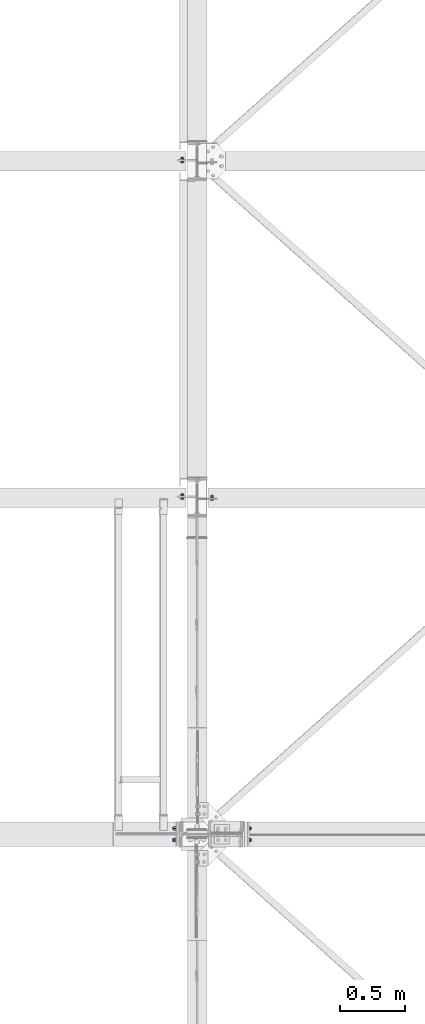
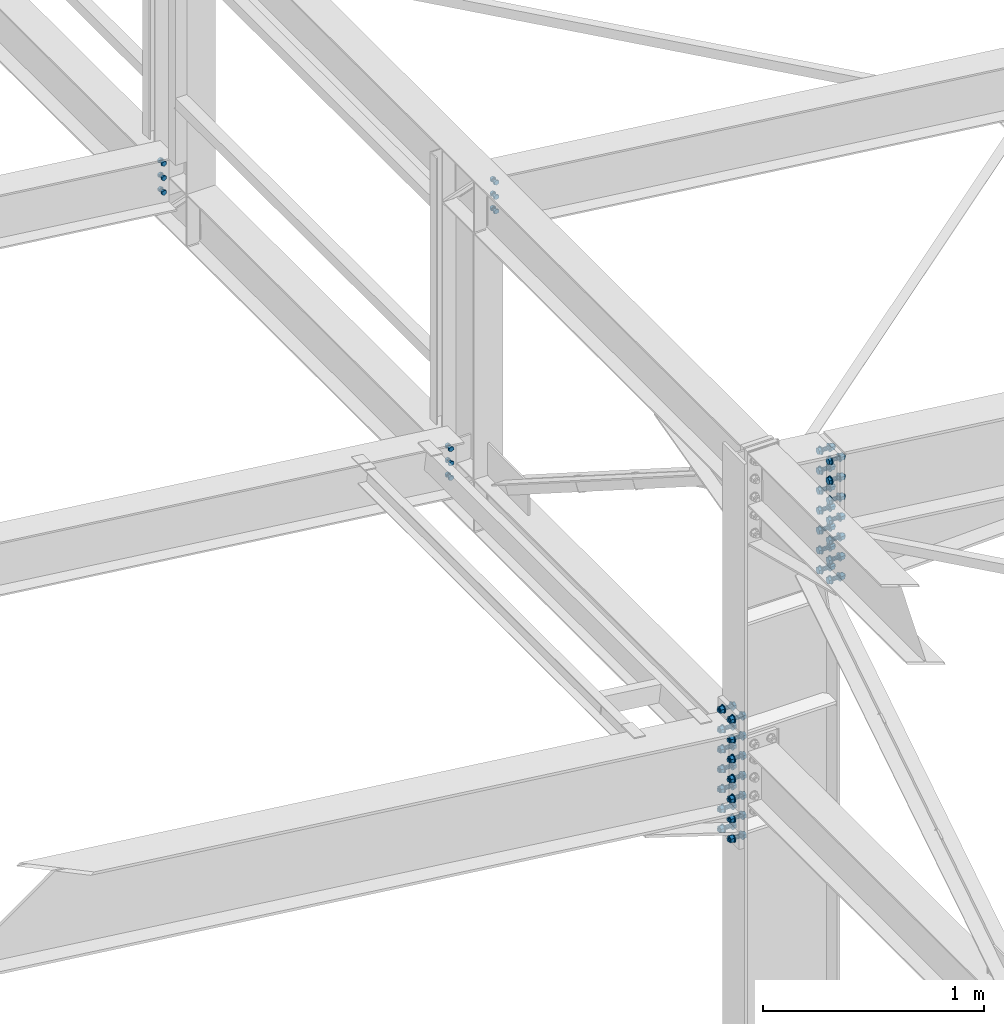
# One storey, part 250 of 3134: 5 mechanical fasteners, 5 elements without a shape of their own.
"""IFC2X3 building model written with IfcOpenShell, lengths in millimetres."""

from ifc_helpers import new_model, si_unit, frame, origin_with_axes, place, context, subcontext, project, spatial, faceted_brep, source, transform, mapped, material, type_object, element, aggregate, save


model = new_model("IFC2X3")

# Units and contexts
model_context = context("Model", 3, precision=1e-05, world=origin_with_axes())
body_context = subcontext(model_context, "Body", "Model", "MODEL_VIEW")
ifc_project = project(units=[si_unit("LENGTHUNIT", "METRE", prefix="MILLI"), si_unit("AREAUNIT", "SQUARE_METRE"), si_unit("VOLUMEUNIT", "CUBIC_METRE"), si_unit("MASSUNIT", "GRAM", prefix="KILO"), si_unit("TIMEUNIT", "SECOND"), si_unit("PLANEANGLEUNIT", "RADIAN"), si_unit("SOLIDANGLEUNIT", "STERADIAN"), si_unit("THERMODYNAMICTEMPERATUREUNIT", "DEGREE_CELSIUS"), si_unit("LUMINOUSINTENSITYUNIT", "LUMEN")], contexts=[model_context])

# Site, building, storey
site_placement = place(None, origin_with_axes())
site = spatial("IfcSite", under=ifc_project, at=site_placement, CompositionType="ELEMENT")
building_placement = place(site_placement, origin_with_axes())
building = spatial("IfcBuilding", under=site, at=building_placement, Name="Undefined", CompositionType="ELEMENT")
storey_placement = place(building_placement, origin_with_axes())
storey = spatial("IfcBuildingStorey", under=building, at=storey_placement, Name="Undefined", CompositionType="ELEMENT", Elevation=0.0)

# Assembly, mechanical fastener
assembly_1_placement = place(storey_placement, origin_with_axes())
assembly_1 = element("IfcElementAssembly", 1, at=assembly_1_placement, inside=storey, Name="IPE450", AssemblyPlace="NOTDEFINED", PredefinedType="RIGID_FRAME")
ifc_material_1 = material(Name="HR10.9")
mechanical_fastener_type = type_object("IfcMechanicalFastenerType", Name="Bolt assembly")
shared_shape_1 = source(origin_with_axes(), body_context, "Body", "Brep", [
    faceted_brep([(18.475208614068, -33.599999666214, 0.0), (9.23760430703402, -33.599999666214, 16.0), (-9.23760430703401, -33.599999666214, 16.0), (-18.475208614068, -33.599999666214, 2.2625605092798e-15), (-9.23760430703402, -33.599999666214, -16.0), (9.237604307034, -33.599999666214, -16.0), (9.237604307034, -19.7000000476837, -16.0), (-9.23760430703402, -19.7000000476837, -16.0), (-18.475208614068, -19.7000000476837, 2.2625605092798e-15), (-9.23760430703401, -19.7000000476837, 16.0), (9.23760430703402, -19.7000000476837, 16.0), (18.475208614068, -19.7000000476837, 0.0), (10.0, -19.7000000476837, 0.0), (8.66025403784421, -19.7000000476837, 5.0000000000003), (4.9999999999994, -19.7000000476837, 8.66025403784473), (-1.03633598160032e-12, -19.7000000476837, 10.0), (-5.00000000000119, -19.7000000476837, 8.6602540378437), (-8.66025403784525, -19.7000000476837, 4.99999999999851), (-10.0, -19.7000000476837, -2.07267196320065e-12), (-8.66025403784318, -19.7000000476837, -5.00000000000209), (-4.99999999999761, -19.7000000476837, -8.66025403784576), (3.09790571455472e-12, -19.7000000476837, -10.0), (5.00000000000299, -19.7000000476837, -8.66025403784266), (8.66025403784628, -19.7000000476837, -4.99999999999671), (8.66025403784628, 55.2999999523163, -4.99999999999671), (5.00000000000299, 55.2999999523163, -8.66025403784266), (3.09790571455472e-12, 55.2999999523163, -10.0), (-4.99999999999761, 55.2999999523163, -8.66025403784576), (-8.66025403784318, 55.2999999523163, -5.00000000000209), (-10.0, 55.2999999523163, -2.07267196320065e-12), (-8.66025403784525, 55.2999999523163, 4.99999999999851), (-5.00000000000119, 55.2999999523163, 8.6602540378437), (-1.03633598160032e-12, 55.2999999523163, 10.0), (4.9999999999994, 55.2999999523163, 8.66025403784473), (8.66025403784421, 55.2999999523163, 5.0000000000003), (10.0, 55.2999999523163, 0.0), (22.0, -19.7000000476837, 0.0), (19.0525588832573, -19.7000000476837, 11.0000000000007), (10.9999999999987, -19.7000000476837, 19.0525588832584), (-2.27993915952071e-12, -19.7000000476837, 22.0), (-11.0000000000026, -19.7000000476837, 19.0525588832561), (-19.0525588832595, -19.7000000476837, 10.9999999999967), (-22.0, -19.7000000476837, -4.55987831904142e-12), (-19.052558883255, -19.7000000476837, -11.0000000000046), (-10.9999999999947, -19.7000000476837, -19.0525588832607), (6.81539257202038e-12, -19.7000000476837, -22.0), (11.0000000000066, -19.7000000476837, -19.0525588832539), (19.0525588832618, -19.7000000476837, -10.9999999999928), (19.0525588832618, -16.0, -10.9999999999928), (11.0000000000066, -16.0, -19.0525588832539), (6.81539257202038e-12, -16.0, -22.0), (-10.9999999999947, -16.0, -19.0525588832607), (-19.052558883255, -16.0, -11.0000000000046), (-22.0, -16.0, -4.55987831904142e-12), (-19.0525588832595, -16.0, 10.9999999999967), (-11.0000000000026, -16.0, 19.0525588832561), (-2.27993915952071e-12, -16.0, 22.0), (10.9999999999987, -16.0, 19.0525588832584), (19.0525588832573, -16.0, 11.0000000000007), (22.0, -16.0, 0.0), (22.0, 25.0, 0.0), (19.0525588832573, 25.0, 11.0000000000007), (10.9999999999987, 25.0, 19.0525588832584), (-2.27993915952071e-12, 25.0, 22.0), (-11.0000000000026, 25.0, 19.0525588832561), (-19.0525588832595, 25.0, 10.9999999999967), (-22.0, 25.0, -4.55987831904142e-12), (-19.052558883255, 25.0, -11.0000000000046), (-10.9999999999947, 25.0, -19.0525588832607), (6.81539257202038e-12, 25.0, -22.0), (11.0000000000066, 25.0, -19.0525588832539), (19.0525588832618, 25.0, -10.9999999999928), (19.0525588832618, 28.7000000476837, -10.9999999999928), (11.0000000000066, 28.7000000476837, -19.0525588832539), (6.81539257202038e-12, 28.7000000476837, -22.0), (-10.9999999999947, 28.7000000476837, -19.0525588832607), (-19.052558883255, 28.7000000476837, -11.0000000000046), (-22.0, 28.7000000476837, -4.55987831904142e-12), (-19.0525588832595, 28.7000000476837, 10.9999999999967), (-11.0000000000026, 28.7000000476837, 19.0525588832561), (-2.27993915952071e-12, 28.7000000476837, 22.0), (10.9999999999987, 28.7000000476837, 19.0525588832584), (19.0525588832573, 28.7000000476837, 11.0000000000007), (22.0, 28.7000000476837, 0.0), (18.475208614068, 28.7000000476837, 0.0), (9.23760430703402, 28.7000000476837, 16.0), (-9.23760430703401, 28.7000000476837, 16.0), (-18.475208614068, 28.7000000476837, 2.2625605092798e-15), (-9.23760430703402, 28.7000000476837, -16.0), (9.237604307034, 28.7000000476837, -16.0), (9.237604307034, 47.2499992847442, -16.0), (-9.23760430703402, 47.2499992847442, -16.0), (-18.475208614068, 47.2499992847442, 2.2625605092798e-15), (-9.23760430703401, 47.2499992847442, 16.0), (9.23760430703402, 47.2499992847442, 16.0), (18.475208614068, 47.2499992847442, 0.0)], [[[0, 1, 2, 3, 4, 5]], [[6, 7, 8, 9, 10, 11]], [[0, 11, 10, 1]], [[1, 10, 9, 2]], [[2, 9, 8, 3]], [[3, 8, 7, 4]], [[4, 7, 6, 5]], [[5, 6, 11, 0]], [[12, 13, 14, 15, 16, 17, 18, 19, 20, 21, 22, 23]], [[24, 25, 26, 27, 28, 29, 30, 31, 32, 33, 34, 35]], [[12, 35, 34, 13]], [[13, 34, 33, 14]], [[14, 33, 32, 15]], [[15, 32, 31, 16]], [[16, 31, 30, 17]], [[17, 30, 29, 18]], [[18, 29, 28, 19]], [[19, 28, 27, 20]], [[20, 27, 26, 21]], [[21, 26, 25, 22]], [[22, 25, 24, 23]], [[23, 24, 35, 12]], [[36, 37, 38, 39, 40, 41, 42, 43, 44, 45, 46, 47]], [[48, 49, 50, 51, 52, 53, 54, 55, 56, 57, 58, 59]], [[36, 59, 58, 37]], [[37, 58, 57, 38]], [[38, 57, 56, 39]], [[39, 56, 55, 40]], [[40, 55, 54, 41]], [[41, 54, 53, 42]], [[42, 53, 52, 43]], [[43, 52, 51, 44]], [[44, 51, 50, 45]], [[45, 50, 49, 46]], [[46, 49, 48, 47]], [[47, 48, 59, 36]], [[60, 61, 62, 63, 64, 65, 66, 67, 68, 69, 70, 71]], [[72, 73, 74, 75, 76, 77, 78, 79, 80, 81, 82, 83]], [[60, 83, 82, 61]], [[61, 82, 81, 62]], [[62, 81, 80, 63]], [[63, 80, 79, 64]], [[64, 79, 78, 65]], [[65, 78, 77, 66]], [[66, 77, 76, 67]], [[67, 76, 75, 68]], [[68, 75, 74, 69]], [[69, 74, 73, 70]], [[70, 73, 72, 71]], [[71, 72, 83, 60]], [[84, 85, 86, 87, 88, 89]], [[90, 91, 92, 93, 94, 95]], [[84, 95, 94, 85]], [[85, 94, 93, 86]], [[86, 93, 92, 87]], [[87, 92, 91, 88]], [[88, 91, 90, 89]], [[89, 90, 95, 84]]]),
    faceted_brep([(11.0, -15.9, 0.0), (9.52627944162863, -15.9, 5.50000000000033), (5.49999999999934, -15.9, 9.5262794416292), (-1.13996957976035e-12, -15.9, 11.0), (-5.50000000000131, -15.9, 9.52627944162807), (-9.52627944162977, -15.9, 5.49999999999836), (-11.0, -15.9, -2.27993915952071e-12), (-9.5262794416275, -15.9, -5.5000000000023), (-5.49999999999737, -15.9, -9.52627944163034), (3.40769628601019e-12, -15.9, -11.0), (5.50000000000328, -15.9, -9.52627944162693), (9.52627944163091, -15.9, -5.49999999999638), (9.52627944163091, 0.0999999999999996, -5.49999999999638), (5.50000000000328, 0.0999999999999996, -9.52627944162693), (3.40769628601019e-12, 0.0999999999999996, -11.0), (-5.49999999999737, 0.0999999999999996, -9.52627944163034), (-9.5262794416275, 0.0999999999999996, -5.5000000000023), (-11.0, 0.0999999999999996, -2.27993915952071e-12), (-9.52627944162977, 0.0999999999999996, 5.49999999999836), (-5.50000000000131, 0.0999999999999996, 9.52627944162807), (-1.13996957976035e-12, 0.0999999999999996, 11.0), (5.49999999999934, 0.0999999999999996, 9.5262794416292), (9.52627944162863, 0.0999999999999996, 5.50000000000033), (11.0, 0.0999999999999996, 0.0), (11.0, -0.1, 0.0), (9.52627944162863, -0.1, 5.50000000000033), (5.49999999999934, -0.1, 9.5262794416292), (-1.13996957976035e-12, -0.1, 11.0), (-5.50000000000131, -0.1, 9.52627944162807), (-9.52627944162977, -0.1, 5.49999999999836), (-11.0, -0.1, -2.27993915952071e-12), (-9.5262794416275, -0.1, -5.5000000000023), (-5.49999999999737, -0.1, -9.52627944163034), (3.40769628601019e-12, -0.1, -11.0), (5.50000000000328, -0.1, -9.52627944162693), (9.52627944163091, -0.1, -5.49999999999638), (9.52627944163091, 25.0, -5.49999999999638), (5.50000000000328, 25.0, -9.52627944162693), (3.40769628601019e-12, 25.0, -11.0), (-5.49999999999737, 25.0, -9.52627944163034), (-9.5262794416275, 25.0, -5.5000000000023), (-11.0, 25.0, -2.27993915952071e-12), (-9.52627944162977, 25.0, 5.49999999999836), (-5.50000000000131, 25.0, 9.52627944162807), (-1.13996957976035e-12, 25.0, 11.0), (5.49999999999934, 25.0, 9.5262794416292), (9.52627944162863, 25.0, 5.50000000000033), (11.0, 25.0, 0.0)], [[[0, 1, 2, 3, 4, 5, 6, 7, 8, 9, 10, 11]], [[12, 13, 14, 15, 16, 17, 18, 19, 20, 21, 22, 23]], [[0, 23, 22, 1]], [[1, 22, 21, 2]], [[2, 21, 20, 3]], [[3, 20, 19, 4]], [[4, 19, 18, 5]], [[5, 18, 17, 6]], [[6, 17, 16, 7]], [[7, 16, 15, 8]], [[8, 15, 14, 9]], [[9, 14, 13, 10]], [[10, 13, 12, 11]], [[11, 12, 23, 0]], [[24, 25, 26, 27, 28, 29, 30, 31, 32, 33, 34, 35]], [[36, 37, 38, 39, 40, 41, 42, 43, 44, 45, 46, 47]], [[24, 47, 46, 25]], [[25, 46, 45, 26]], [[26, 45, 44, 27]], [[27, 44, 43, 28]], [[28, 43, 42, 29]], [[29, 42, 41, 30]], [[30, 41, 40, 31]], [[31, 40, 39, 32]], [[32, 39, 38, 33]], [[33, 38, 37, 34]], [[34, 37, 36, 35]], [[35, 36, 47, 24]]]),
])
mechanical_fastener_1_placement = place(assembly_1_placement, frame((32890.0, 40250.0, 5711.36541521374), z_axis=(0.0, -1.0, 0.0), x_axis=(0.0, 0.0, -1.0)))
mechanical_fastener_1 = element("IfcMechanicalFastener", 2, at=mechanical_fastener_1_placement, type_object=mechanical_fastener_type, material=ifc_material_1, Name="Bolt assembly", NominalDiameter=20.0, NominalLength=75.0, context=body_context, shape_type="MappedRepresentation", body=[
    mapped(shared_shape_1, transform((0.0, 0.0, -45.0))),
    mapped(shared_shape_1, transform((0.0, 0.0, 45.0))),
    mapped(shared_shape_1, transform((110.0, 0.0, -45.0))),
    mapped(shared_shape_1, transform((110.0, 0.0, 45.0))),
    mapped(shared_shape_1, transform((220.0, 0.0, -45.0))),
    mapped(shared_shape_1, transform((220.0, 0.0, 45.0))),
    mapped(shared_shape_1, transform((330.0, 0.0, -45.0))),
    mapped(shared_shape_1, transform((330.0, 0.0, 45.0))),
    mapped(shared_shape_1, transform((440.0, 0.0, -45.0))),
    mapped(shared_shape_1, transform((440.0, 0.0, 45.0))),
    mapped(shared_shape_1, transform((550.0, 0.0, -45.0))),
    mapped(shared_shape_1, transform((550.0, 0.0, 45.0))),
    mapped(shared_shape_1, transform((660.0, 0.0, -45.0))),
    mapped(shared_shape_1, transform((660.0, 0.0, 45.0))),
])
aggregate(assembly_1, [mechanical_fastener_1])

assembly_2_placement = place(storey_placement, origin_with_axes())
assembly_2 = element("IfcElementAssembly", 3, at=assembly_2_placement, inside=storey, Name="IPE450", AssemblyPlace="NOTDEFINED", PredefinedType="RIGID_FRAME")
mechanical_fastener_2_placement = place(assembly_2_placement, frame((32390.0, 40250.0, 4461.54211857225), z_axis=(0.0, 1.0, 0.0), x_axis=(0.0, 0.0, -1.0)))
mechanical_fastener_2 = element("IfcMechanicalFastener", 4, at=mechanical_fastener_2_placement, type_object=mechanical_fastener_type, material=ifc_material_1, Name="Bolt assembly", NominalDiameter=20.0, NominalLength=75.0, context=body_context, shape_type="MappedRepresentation", body=[
    mapped(shared_shape_1, transform((0.0, 0.0, -45.0))),
    mapped(shared_shape_1, transform((0.0, 0.0, 45.0))),
    mapped(shared_shape_1, transform((110.0, 0.0, -45.0))),
    mapped(shared_shape_1, transform((110.0, 0.0, 45.0))),
    mapped(shared_shape_1, transform((220.0, 0.0, -45.0))),
    mapped(shared_shape_1, transform((220.0, 0.0, 45.0))),
    mapped(shared_shape_1, transform((330.0, 0.0, -45.0))),
    mapped(shared_shape_1, transform((330.0, 0.0, 45.0))),
    mapped(shared_shape_1, transform((440.0, 0.0, -45.0))),
    mapped(shared_shape_1, transform((440.0, 0.0, 45.0))),
    mapped(shared_shape_1, transform((550.0, 0.0, -45.0))),
    mapped(shared_shape_1, transform((550.0, 0.0, 45.0))),
    mapped(shared_shape_1, transform((660.0, 0.0, -45.0))),
    mapped(shared_shape_1, transform((660.0, 0.0, 45.0))),
])
aggregate(assembly_2, [mechanical_fastener_2])

assembly_3_placement = place(storey_placement, origin_with_axes())
assembly_3 = element("IfcElementAssembly", 5, at=assembly_3_placement, inside=storey, Name="300", AssemblyPlace="NOTDEFINED", PredefinedType="RIGID_FRAME")
ifc_material_2 = material(Name="8.8")
shared_shape_2 = source(origin_with_axes(), body_context, "Body", "Brep", [
    faceted_brep([(13.856406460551, -13.0499999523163, 0.0), (6.92820323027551, -13.0499999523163, 12.0), (-6.92820323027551, -13.0499999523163, 12.0), (-13.856406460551, -13.0499999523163, 1.69692038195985e-15), (-6.92820323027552, -13.0499999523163, -12.0), (6.9282032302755, -13.0499999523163, -12.0), (6.9282032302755, -3.04999995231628, -12.0), (-6.92820323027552, -3.04999995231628, -12.0), (-13.856406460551, -3.04999995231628, 1.69692038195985e-15), (-6.92820323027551, -3.04999995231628, 12.0), (6.92820323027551, -3.04999995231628, 12.0), (13.856406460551, -3.04999995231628, 0.0), (8.0, -3.04999995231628, 0.0), (6.92820323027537, -3.04999995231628, 4.00000000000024), (3.99999999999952, -3.04999995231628, 6.92820323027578), (-8.29068785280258e-13, -3.04999995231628, 8.0), (-4.00000000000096, -3.04999995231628, 6.92820323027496), (-6.9282032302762, -3.04999995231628, 3.99999999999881), (-8.0, -3.04999995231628, -1.65813757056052e-12), (-6.92820323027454, -3.04999995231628, -4.00000000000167), (-3.99999999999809, -3.04999995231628, -6.92820323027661), (2.47832457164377e-12, -3.04999995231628, -8.0), (4.00000000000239, -3.04999995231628, -6.92820323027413), (6.92820323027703, -3.04999995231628, -3.99999999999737), (6.92820323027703, 31.9500000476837, -3.99999999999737), (4.00000000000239, 31.9500000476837, -6.92820323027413), (2.47832457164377e-12, 31.9500000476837, -8.0), (-3.99999999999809, 31.9500000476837, -6.92820323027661), (-6.92820323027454, 31.9500000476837, -4.00000000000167), (-8.0, 31.9500000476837, -1.65813757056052e-12), (-6.9282032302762, 31.9500000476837, 3.99999999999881), (-4.00000000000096, 31.9500000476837, 6.92820323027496), (-8.29068785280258e-13, 31.9500000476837, 8.0), (3.99999999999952, 31.9500000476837, 6.92820323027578), (6.92820323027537, 31.9500000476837, 4.00000000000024), (8.0, 31.9500000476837, 0.0), (13.856406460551, 13.0500000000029, 0.0), (6.92820323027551, 13.0500000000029, 12.0), (-6.92820323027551, 13.0500000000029, 12.0), (-13.856406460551, 13.0500000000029, 1.69692038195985e-15), (-6.92820323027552, 13.0500000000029, -12.0), (6.9282032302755, 13.0500000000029, -12.0), (6.9282032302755, 26.0500000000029, -12.0), (-6.92820323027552, 26.0500000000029, -12.0), (-13.856406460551, 26.0500000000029, 1.69692038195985e-15), (-6.92820323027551, 26.0500000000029, 12.0), (6.92820323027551, 26.0500000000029, 12.0), (13.856406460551, 26.0500000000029, 0.0)], [[[0, 1, 2, 3, 4, 5]], [[6, 7, 8, 9, 10, 11]], [[0, 11, 10, 1]], [[1, 10, 9, 2]], [[2, 9, 8, 3]], [[3, 8, 7, 4]], [[4, 7, 6, 5]], [[5, 6, 11, 0]], [[12, 13, 14, 15, 16, 17, 18, 19, 20, 21, 22, 23]], [[24, 25, 26, 27, 28, 29, 30, 31, 32, 33, 34, 35]], [[12, 35, 34, 13]], [[13, 34, 33, 14]], [[14, 33, 32, 15]], [[15, 32, 31, 16]], [[16, 31, 30, 17]], [[17, 30, 29, 18]], [[18, 29, 28, 19]], [[19, 28, 27, 20]], [[20, 27, 26, 21]], [[21, 26, 25, 22]], [[22, 25, 24, 23]], [[23, 24, 35, 12]], [[36, 37, 38, 39, 40, 41]], [[42, 43, 44, 45, 46, 47]], [[36, 47, 46, 37]], [[37, 46, 45, 38]], [[38, 45, 44, 39]], [[39, 44, 43, 40]], [[40, 43, 42, 41]], [[41, 42, 47, 36]]]),
    faceted_brep([(9.0, 2.95000000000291, 0.0), (7.79422863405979, 2.95000000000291, 4.50000000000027), (4.49999999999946, 2.95000000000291, 7.79422863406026), (-9.3270238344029e-13, 2.95000000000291, 9.0), (-4.50000000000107, 2.95000000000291, 7.79422863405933), (-7.79422863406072, 2.95000000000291, 4.49999999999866), (-9.0, 2.95000000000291, -1.86540476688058e-12), (-7.79422863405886, 2.95000000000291, -4.50000000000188), (-4.49999999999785, 2.95000000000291, -7.79422863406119), (2.78811514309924e-12, 2.95000000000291, -9.0), (4.50000000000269, 2.95000000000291, -7.7942286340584), (7.79422863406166, 2.95000000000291, -4.49999999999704), (7.79422863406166, 13.0500000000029, -4.49999999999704), (4.50000000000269, 13.0500000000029, -7.7942286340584), (2.78811514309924e-12, 13.0500000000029, -9.0), (-4.49999999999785, 13.0500000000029, -7.79422863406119), (-7.79422863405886, 13.0500000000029, -4.50000000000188), (-9.0, 13.0500000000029, -1.86540476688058e-12), (-7.79422863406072, 13.0500000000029, 4.49999999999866), (-4.50000000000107, 13.0500000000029, 7.79422863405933), (-9.3270238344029e-13, 13.0500000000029, 9.0), (4.49999999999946, 13.0500000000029, 7.79422863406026), (7.79422863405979, 13.0500000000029, 4.50000000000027), (9.0, 13.0500000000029, 0.0), (9.0, -2.94999995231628, 0.0), (7.79422863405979, -2.94999995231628, 4.50000000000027), (4.49999999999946, -2.94999995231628, 7.79422863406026), (-9.3270238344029e-13, -2.94999995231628, 9.0), (-4.50000000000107, -2.94999995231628, 7.79422863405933), (-7.79422863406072, -2.94999995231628, 4.49999999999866), (-9.0, -2.94999995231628, -1.86540476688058e-12), (-7.79422863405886, -2.94999995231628, -4.50000000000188), (-4.49999999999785, -2.94999995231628, -7.79422863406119), (2.78811514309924e-12, -2.94999995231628, -9.0), (4.50000000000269, -2.94999995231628, -7.7942286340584), (7.79422863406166, -2.94999995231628, -4.49999999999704), (7.79422863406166, 3.14999995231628, -4.49999999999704), (4.50000000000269, 3.14999995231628, -7.7942286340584), (2.78811514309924e-12, 3.14999995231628, -9.0), (-4.49999999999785, 3.14999995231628, -7.79422863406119), (-7.79422863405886, 3.14999995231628, -4.50000000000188), (-9.0, 3.14999995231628, -1.86540476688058e-12), (-7.79422863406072, 3.14999995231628, 4.49999999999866), (-4.50000000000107, 3.14999995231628, 7.79422863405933), (-9.3270238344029e-13, 3.14999995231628, 9.0), (4.49999999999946, 3.14999995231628, 7.79422863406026), (7.79422863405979, 3.14999995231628, 4.50000000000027), (9.0, 3.14999995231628, 0.0)], [[[0, 1, 2, 3, 4, 5, 6, 7, 8, 9, 10, 11]], [[12, 13, 14, 15, 16, 17, 18, 19, 20, 21, 22, 23]], [[0, 23, 22, 1]], [[1, 22, 21, 2]], [[2, 21, 20, 3]], [[3, 20, 19, 4]], [[4, 19, 18, 5]], [[5, 18, 17, 6]], [[6, 17, 16, 7]], [[7, 16, 15, 8]], [[8, 15, 14, 9]], [[9, 14, 13, 10]], [[10, 13, 12, 11]], [[11, 12, 23, 0]], [[24, 25, 26, 27, 28, 29, 30, 31, 32, 33, 34, 35]], [[36, 37, 38, 39, 40, 41, 42, 43, 44, 45, 46, 47]], [[24, 47, 46, 25]], [[25, 46, 45, 26]], [[26, 45, 44, 27]], [[27, 44, 43, 28]], [[28, 43, 42, 29]], [[29, 42, 41, 30]], [[30, 41, 40, 31]], [[31, 40, 39, 32]], [[32, 39, 38, 33]], [[33, 38, 37, 34]], [[34, 37, 36, 35]], [[35, 36, 47, 24]]]),
])
mechanical_fastener_3_placement = place(assembly_3_placement, frame((32410.0, 45450.0, 4337.44269270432), z_axis=(1.0, 0.0, 0.0), x_axis=(0.0, 0.0, -1.0)))
mechanical_fastener_3 = element("IfcMechanicalFastener", 6, at=mechanical_fastener_3_placement, type_object=mechanical_fastener_type, material=ifc_material_2, Name="Bolt assembly", NominalDiameter=16.0, NominalLength=35.0, context=body_context, shape_type="MappedRepresentation", body=[
    mapped(shared_shape_2, transform((0.0, 0.0, 0.0))),
    mapped(shared_shape_2, transform((80.0, 0.0, 0.0))),
    mapped(shared_shape_2, transform((160.0, 0.0, 0.0))),
])
aggregate(assembly_3, [mechanical_fastener_3])

assembly_4_placement = place(storey_placement, origin_with_axes())
assembly_4 = element("IfcElementAssembly", 7, at=assembly_4_placement, inside=storey, Name="300", AssemblyPlace="NOTDEFINED", PredefinedType="RIGID_FRAME")
mechanical_fastener_4_placement = place(assembly_4_placement, frame((32410.0, 42850.0, 4337.44269270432), z_axis=(1.0, 0.0, 0.0), x_axis=(0.0, 0.0, -1.0)))
mechanical_fastener_4 = element("IfcMechanicalFastener", 8, at=mechanical_fastener_4_placement, type_object=mechanical_fastener_type, material=ifc_material_2, Name="Bolt assembly", NominalDiameter=16.0, NominalLength=35.0, context=body_context, shape_type="MappedRepresentation", body=[
    mapped(shared_shape_2, transform((0.0, 0.0, 0.0))),
    mapped(shared_shape_2, transform((80.0, 0.0, 0.0))),
    mapped(shared_shape_2, transform((160.0, 0.0, 0.0))),
])
aggregate(assembly_4, [mechanical_fastener_4])

assembly_5_placement = place(storey_placement, origin_with_axes())
assembly_5 = element("IfcElementAssembly", 9, at=assembly_5_placement, inside=storey, Name="300", AssemblyPlace="NOTDEFINED", PredefinedType="RIGID_FRAME")
shared_shape_3 = source(origin_with_axes(), body_context, "Body", "Brep", [
    faceted_brep([(13.856406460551, -23.0499999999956, 0.0), (6.92820323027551, -23.0499999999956, 12.0), (-6.92820323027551, -23.0499999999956, 12.0), (-13.856406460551, -23.0499999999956, 1.69692038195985e-15), (-6.92820323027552, -23.0499999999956, -12.0), (6.9282032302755, -23.0499999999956, -12.0), (6.9282032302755, -13.0499999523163, -12.0), (-6.92820323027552, -13.0499999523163, -12.0), (-13.856406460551, -13.0499999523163, 1.69692038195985e-15), (-6.92820323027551, -13.0499999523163, 12.0), (6.92820323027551, -13.0499999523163, 12.0), (13.856406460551, -13.0499999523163, 0.0), (8.0, -13.0499999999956, 0.0), (6.92820323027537, -13.0499999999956, 4.00000000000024), (3.99999999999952, -13.0499999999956, 6.92820323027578), (-8.29068785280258e-13, -13.0499999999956, 8.0), (-4.00000000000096, -13.0499999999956, 6.92820323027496), (-6.9282032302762, -13.0499999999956, 3.99999999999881), (-8.0, -13.0499999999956, -1.65813757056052e-12), (-6.92820323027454, -13.0499999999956, -4.00000000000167), (-3.99999999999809, -13.0499999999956, -6.92820323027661), (2.47832457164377e-12, -13.0499999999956, -8.0), (4.00000000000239, -13.0499999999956, -6.92820323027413), (6.92820323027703, -13.0499999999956, -3.99999999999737), (6.92820323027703, 21.9500000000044, -3.99999999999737), (4.00000000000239, 21.9500000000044, -6.92820323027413), (2.47832457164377e-12, 21.9500000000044, -8.0), (-3.99999999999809, 21.9500000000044, -6.92820323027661), (-6.92820323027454, 21.9500000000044, -4.00000000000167), (-8.0, 21.9500000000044, -1.65813757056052e-12), (-6.9282032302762, 21.9500000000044, 3.99999999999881), (-4.00000000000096, 21.9500000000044, 6.92820323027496), (-8.29068785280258e-13, 21.9500000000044, 8.0), (3.99999999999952, 21.9500000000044, 6.92820323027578), (6.92820323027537, 21.9500000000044, 4.00000000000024), (8.0, 21.9500000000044, 0.0), (13.856406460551, 3.04999995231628, 0.0), (6.92820323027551, 3.04999995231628, 12.0), (-6.92820323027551, 3.04999995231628, 12.0), (-13.856406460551, 3.04999995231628, 1.69692038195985e-15), (-6.92820323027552, 3.04999995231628, -12.0), (6.9282032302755, 3.04999995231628, -12.0), (6.9282032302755, 16.0499999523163, -12.0), (-6.92820323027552, 16.0499999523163, -12.0), (-13.856406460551, 16.0499999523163, 1.69692038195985e-15), (-6.92820323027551, 16.0499999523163, 12.0), (6.92820323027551, 16.0499999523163, 12.0), (13.856406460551, 16.0499999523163, 0.0)], [[[0, 1, 2, 3, 4, 5]], [[6, 7, 8, 9, 10, 11]], [[0, 11, 10, 1]], [[1, 10, 9, 2]], [[2, 9, 8, 3]], [[3, 8, 7, 4]], [[4, 7, 6, 5]], [[5, 6, 11, 0]], [[12, 13, 14, 15, 16, 17, 18, 19, 20, 21, 22, 23]], [[24, 25, 26, 27, 28, 29, 30, 31, 32, 33, 34, 35]], [[12, 35, 34, 13]], [[13, 34, 33, 14]], [[14, 33, 32, 15]], [[15, 32, 31, 16]], [[16, 31, 30, 17]], [[17, 30, 29, 18]], [[18, 29, 28, 19]], [[19, 28, 27, 20]], [[20, 27, 26, 21]], [[21, 26, 25, 22]], [[22, 25, 24, 23]], [[23, 24, 35, 12]], [[36, 37, 38, 39, 40, 41]], [[42, 43, 44, 45, 46, 47]], [[36, 47, 46, 37]], [[37, 46, 45, 38]], [[38, 45, 44, 39]], [[39, 44, 43, 40]], [[40, 43, 42, 41]], [[41, 42, 47, 36]]]),
    faceted_brep([(9.0, -12.9499999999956, 0.0), (7.79422863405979, -12.9499999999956, 4.50000000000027), (4.49999999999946, -12.9499999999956, 7.79422863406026), (-9.3270238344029e-13, -12.9499999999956, 9.0), (-4.50000000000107, -12.9499999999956, 7.79422863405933), (-7.79422863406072, -12.9499999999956, 4.49999999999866), (-9.0, -12.9499999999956, -1.86540476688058e-12), (-7.79422863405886, -12.9499999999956, -4.50000000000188), (-4.49999999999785, -12.9499999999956, -7.79422863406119), (2.78811514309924e-12, -12.9499999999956, -9.0), (4.50000000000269, -12.9499999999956, -7.7942286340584), (7.79422863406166, -12.9499999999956, -4.49999999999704), (7.79422863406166, -2.94999995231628, -4.49999999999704), (4.50000000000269, -2.94999995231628, -7.7942286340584), (2.78811514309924e-12, -2.94999995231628, -9.0), (-4.49999999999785, -2.94999995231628, -7.79422863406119), (-7.79422863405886, -2.94999995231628, -4.50000000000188), (-9.0, -2.94999995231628, -1.86540476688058e-12), (-7.79422863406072, -2.94999995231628, 4.49999999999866), (-4.50000000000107, -2.94999995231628, 7.79422863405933), (-9.3270238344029e-13, -2.94999995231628, 9.0), (4.49999999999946, -2.94999995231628, 7.79422863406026), (7.79422863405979, -2.94999995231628, 4.50000000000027), (9.0, -2.94999995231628, 0.0), (9.0, -3.14999995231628, 0.0), (7.79422863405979, -3.14999995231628, 4.50000000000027), (4.49999999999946, -3.14999995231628, 7.79422863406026), (-9.3270238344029e-13, -3.14999995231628, 9.0), (-4.50000000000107, -3.14999995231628, 7.79422863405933), (-7.79422863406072, -3.14999995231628, 4.49999999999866), (-9.0, -3.14999995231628, -1.86540476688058e-12), (-7.79422863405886, -3.14999995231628, -4.50000000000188), (-4.49999999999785, -3.14999995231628, -7.79422863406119), (2.78811514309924e-12, -3.14999995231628, -9.0), (4.50000000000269, -3.14999995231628, -7.7942286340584), (7.79422863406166, -3.14999995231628, -4.49999999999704), (7.79422863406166, 3.04999995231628, -4.49999999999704), (4.50000000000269, 3.04999995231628, -7.7942286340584), (2.78811514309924e-12, 3.04999995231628, -9.0), (-4.49999999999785, 3.04999995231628, -7.79422863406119), (-7.79422863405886, 3.04999995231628, -4.50000000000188), (-9.0, 3.04999995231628, -1.86540476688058e-12), (-7.79422863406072, 3.04999995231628, 4.49999999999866), (-4.50000000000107, 3.04999995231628, 7.79422863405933), (-9.3270238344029e-13, 3.04999995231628, 9.0), (4.49999999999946, 3.04999995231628, 7.79422863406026), (7.79422863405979, 3.04999995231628, 4.50000000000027), (9.0, 3.04999995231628, 0.0)], [[[0, 1, 2, 3, 4, 5, 6, 7, 8, 9, 10, 11]], [[12, 13, 14, 15, 16, 17, 18, 19, 20, 21, 22, 23]], [[0, 23, 22, 1]], [[1, 22, 21, 2]], [[2, 21, 20, 3]], [[3, 20, 19, 4]], [[4, 19, 18, 5]], [[5, 18, 17, 6]], [[6, 17, 16, 7]], [[7, 16, 15, 8]], [[8, 15, 14, 9]], [[9, 14, 13, 10]], [[10, 13, 12, 11]], [[11, 12, 23, 0]], [[24, 25, 26, 27, 28, 29, 30, 31, 32, 33, 34, 35]], [[36, 37, 38, 39, 40, 41, 42, 43, 44, 45, 46, 47]], [[24, 47, 46, 25]], [[25, 46, 45, 26]], [[26, 45, 44, 27]], [[27, 44, 43, 28]], [[28, 43, 42, 29]], [[29, 42, 41, 30]], [[30, 41, 40, 31]], [[31, 40, 39, 32]], [[32, 39, 38, 33]], [[33, 38, 37, 34]], [[34, 37, 36, 35]], [[35, 36, 47, 24]]]),
])
mechanical_fastener_5_placement = place(assembly_5_placement, frame((32640.0, 42850.0, 5735.35014950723), z_axis=(1.0, 0.0, 0.0), x_axis=(0.0, 0.0, -1.0)))
mechanical_fastener_5 = element("IfcMechanicalFastener", 10, at=mechanical_fastener_5_placement, type_object=mechanical_fastener_type, material=ifc_material_2, Name="Bolt assembly", NominalDiameter=16.0, NominalLength=35.0, context=body_context, shape_type="MappedRepresentation", body=[
    mapped(shared_shape_3, transform((0.0, 0.0, 0.0))),
    mapped(shared_shape_3, transform((80.0, 0.0, 0.0))),
    mapped(shared_shape_3, transform((160.0, 0.0, 0.0))),
])
aggregate(assembly_5, [mechanical_fastener_5])

save(model, "model.ifc")
